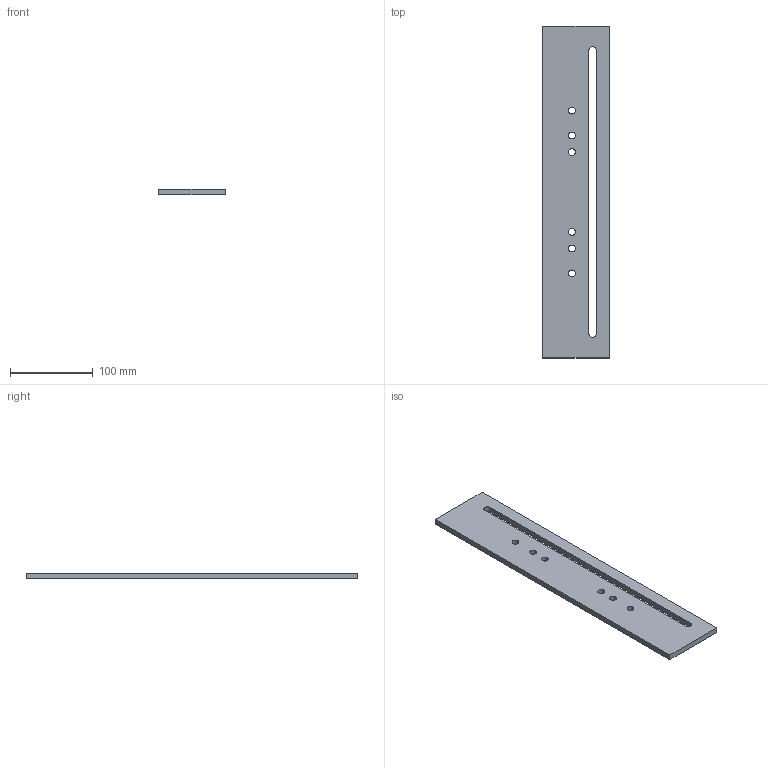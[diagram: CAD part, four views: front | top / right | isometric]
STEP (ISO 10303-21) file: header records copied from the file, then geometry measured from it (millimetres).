
FILE_DESCRIPTION(('Open CASCADE Model'),'2;1');
FILE_NAME('Open CASCADE Shape Model','2026-10-28T04:26:17',('Author'),( 'Open CASCADE'),'Open CASCADE STEP processor 7.8','Open CASCADE 7.8' ,'Unknown');
FILE_SCHEMA(('AUTOMOTIVE_DESIGN { 1 0 10303 214 1 1 1 1 }'));
Length unit declared in the file: millimetre
Products named in the file (1): Open CASCADE STEP translator 7.8 3
Bounding box: 80 x 400 x 7 mm (x, y, z)
Volume: 199880.6 mm3; surface area: 69876 mm2
Topology: 1 solids, 1 shells, 16 faces, 42 edges, 28 vertices
Faces by surface type: plane 8, cylinder 8
Full cylindrical faces by diameter (mm): 8.15 x6
Entity records: 1126 total; most frequent: CARTESIAN_POINT 275, DIRECTION 152, LINE 86, VECTOR 86, ORIENTED_EDGE 84, PCURVE 84, DEFINITIONAL_REPRESENTATION 84, EDGE_CURVE 42
